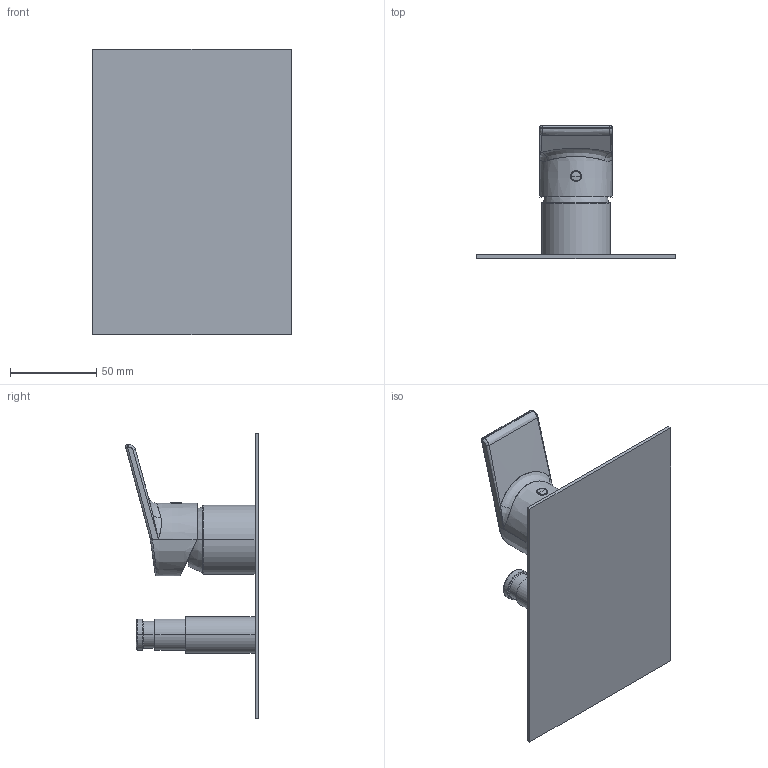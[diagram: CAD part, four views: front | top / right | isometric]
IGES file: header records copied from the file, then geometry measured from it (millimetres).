
Start section:  PTC IGES file: 74010.igs
Global section: file name: 74010.igs; native system: Creo Parametric by PTC Inc.; preprocessor: 2022014; author: carloff; organization: Unknown; date: 20250714.112513; units: millimetre
Bounding box: 115 x 76.87 x 165 mm (x, y, z)
Surface area: 61810.4 mm2 (no closed solid volume)
Topology: 0 solids, 0 shells, 161 faces, 744 edges, 742 vertices
Faces by surface type: revolution 84, bspline 77
